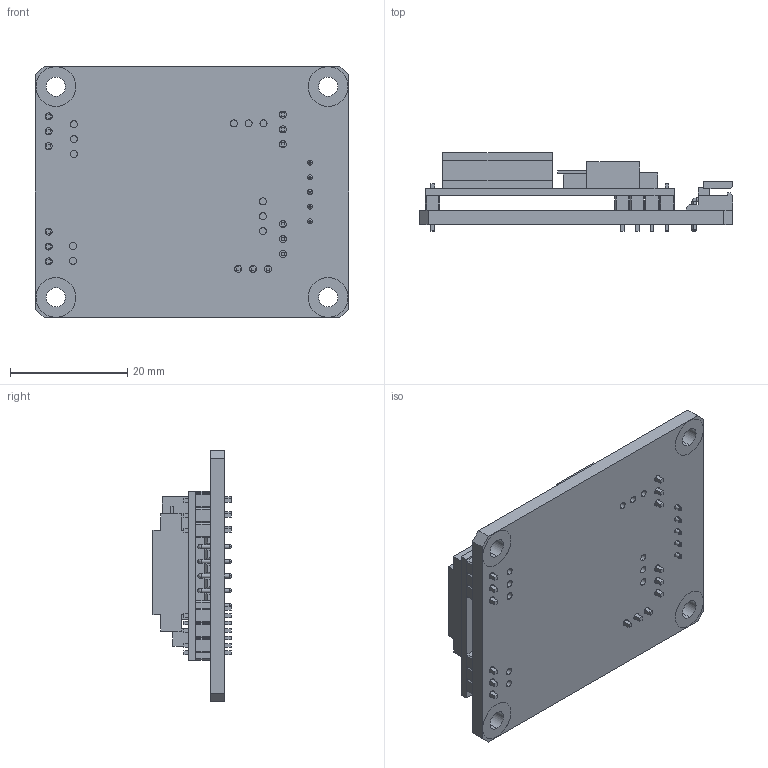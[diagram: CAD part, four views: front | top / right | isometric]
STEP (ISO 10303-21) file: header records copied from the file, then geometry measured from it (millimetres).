
FILE_DESCRIPTION (( 'STEP AP203' ), '1' );
FILE_NAME ('BSSP-F100W-T.STEP', '2016-07-23T17:13:06', ( 'gregory' ), ( '' ), 'SwSTEP 2.0', 'SolidWorks 2011', '' );
FILE_SCHEMA (( 'CONFIG_CONTROL_DESIGN' ));
Length unit declared in the file: millimetre
Products named in the file (1): BSSP-F100W-T
Bounding box: 53.5 x 13.34 x 43 mm (x, y, z)
Volume: 10296.2 mm3; surface area: 9959.9 mm2
Topology: 1 solids, 1 shells, 660 faces, 1707 edges, 1106 vertices
Faces by surface type: plane 519, cylinder 116, torus 20, bspline 5
Entity records: 21088 total; most frequent: CARTESIAN_POINT 4599, ORIENTED_EDGE 3394, DIRECTION 3276, EDGE_CURVE 1697, VECTOR 1390, LINE 1390, VERTEX_POINT 1106, AXIS2_PLACEMENT_3D 943
